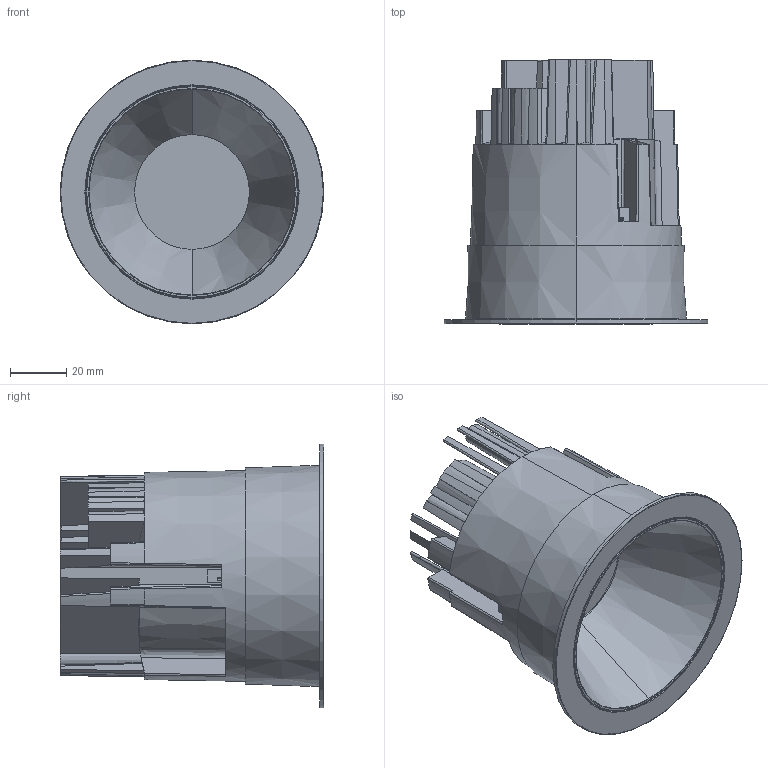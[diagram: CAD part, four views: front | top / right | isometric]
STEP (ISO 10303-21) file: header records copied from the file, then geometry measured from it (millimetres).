
FILE_DESCRIPTION (( 'STEP AP214' ), '1' );
FILE_NAME ('WG-H-PTD3-FA-RBT-RRC.STEP', '2023-02-03T19:39:13', ( '' ), ( '' ), 'SwSTEP 2.0', 'SolidWorks 2021', '' );
FILE_SCHEMA (( 'AUTOMOTIVE_DESIGN' ));
Length unit declared in the file: inch
Products named in the file (10): 820-10713_Closed; 41002 - Push Latch Runner, Small; Copy of 340-10027-400_stretch out; 41002 - Push Latch Clip, Small A; WG-CV-PTD3-RRC-__-_-___test; WG-H-PTD3-FA-RBT-RRC; 720-10034-300; 41002 - Push Latch Body, Small; 720-10061-304; 760-10049-400
Assembly tree (11 placements, depth 3):
  WG-H-PTD3-FA-RBT-RRC
    720-10034-300
    WG-CV-PTD3-RRC-__-_-___test
      720-10061-304
      760-10049-400
      Copy of 340-10027-400_stretch out
    820-10713_Closed  x3
      41002 - Push Latch Body, Small
      41002 - Push Latch Runner, Small
      41002 - Push Latch Clip, Small A
Bounding box: 94 x 94 x 94 mm (x, y, z)
Volume: 122307.2 mm3; surface area: 105733 mm2
Topology: 13 solids, 13 shells, 1050 faces, 2861 edges, 1824 vertices
Faces by surface type: plane 560, cone 166, cylinder 144, bspline 90, torus 54, sphere 36
Entity records: 26723 total; most frequent: CARTESIAN_POINT 8462, ORIENTED_EDGE 3910, DIRECTION 3505, EDGE_CURVE 1955, AXIS2_PLACEMENT_3D 1342, VERTEX_POINT 1246, LINE 821, VECTOR 821
